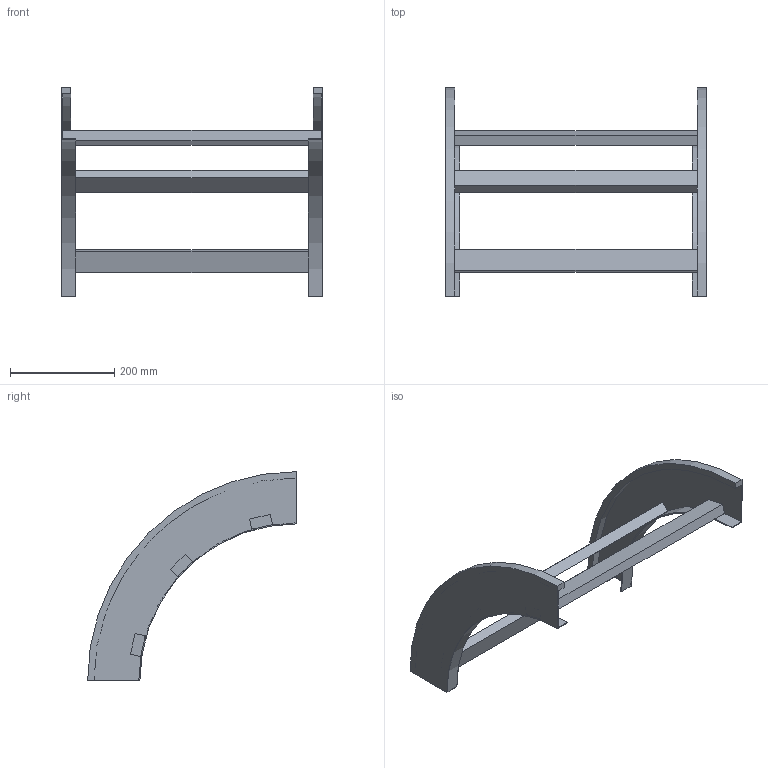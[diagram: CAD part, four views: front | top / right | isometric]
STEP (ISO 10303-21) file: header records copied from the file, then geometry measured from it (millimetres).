
FILE_DESCRIPTION (( 'STEP AP214' ), '1' );
FILE_NAME ('B2_33B3D500.step', '2025-02-21T15:02:32', ( '' ), ( '' ), 'SwSTEP 2.0', 'SolidWorks 2023', '' );
FILE_SCHEMA (( 'AUTOMOTIVE_DESIGN' ));
Length unit declared in the file: millimetre
Products named in the file (3): B2_LONGH.DISCESA_90°_H100_R300; B2_33B3D500; TRAVERSINO_500
Assembly tree (5 placements, depth 2):
  B2_33B3D500
    B2_LONGH.DISCESA_90°_H100_R300  x2
    TRAVERSINO_500  x3
Bounding box: 500 x 400 x 400 mm (x, y, z)
Volume: 1710127.7 mm3; surface area: 497875.9 mm2
Topology: 5 solids, 5 shells, 38 faces, 84 edges, 56 vertices
Faces by surface type: plane 30, cylinder 8
Entity records: 560 total; most frequent: DIRECTION 92, CARTESIAN_POINT 84, ORIENTED_EDGE 72, EDGE_CURVE 36, AXIS2_PLACEMENT_3D 32, VECTOR 28, LINE 28, VERTEX_POINT 24
